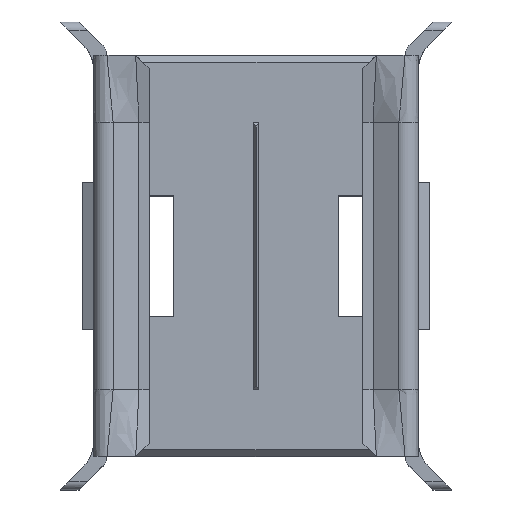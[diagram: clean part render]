
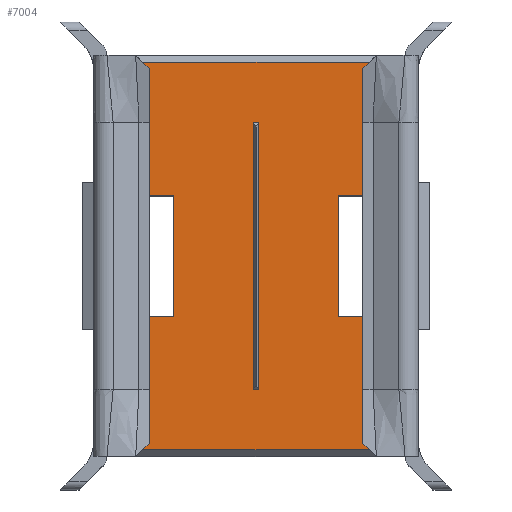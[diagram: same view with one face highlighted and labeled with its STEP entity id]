
A CAD part, top view. The second image highlights one B-rep face of the part: STEP entity #7004.
In plain terms, the highlighted planar face has unit normal (0, 0, 1).
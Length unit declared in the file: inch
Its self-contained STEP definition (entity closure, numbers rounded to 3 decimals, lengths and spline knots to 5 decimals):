
#2787=DIRECTION('',(1.,0.,0.));
#2788=VECTOR('',#2787,2.13);
#2789=CARTESIAN_POINT('',(-1.065,1.45,0.));
#2790=LINE('',#2789,#2788);
#2794=DIRECTION('',(0.,1.,0.));
#2795=VECTOR('',#2794,1.);
#2796=CARTESIAN_POINT('',(1.065,0.45,0.));
#2797=LINE('',#2796,#2795);
#2801=DIRECTION('',(-1.,0.,0.));
#2802=VECTOR('',#2801,0.45);
#2803=CARTESIAN_POINT('',(1.065,0.45,0.));
#2804=LINE('',#2803,#2802);
#2808=DIRECTION('',(0.,1.,0.));
#2809=VECTOR('',#2808,0.9);
#2810=CARTESIAN_POINT('',(0.615,-0.45,0.));
#2811=LINE('',#2810,#2809);
#2815=DIRECTION('',(-1.,0.,0.));
#2816=VECTOR('',#2815,0.45);
#2817=CARTESIAN_POINT('',(1.065,-0.45,0.));
#2818=LINE('',#2817,#2816);
#2822=DIRECTION('',(0.,1.,0.));
#2823=VECTOR('',#2822,1.);
#2824=CARTESIAN_POINT('',(1.065,-1.45,0.));
#2825=LINE('',#2824,#2823);
#2829=DIRECTION('',(-1.,0.,0.));
#2830=VECTOR('',#2829,2.13);
#2831=CARTESIAN_POINT('',(1.065,-1.45,0.));
#2832=LINE('',#2831,#2830);
#2836=DIRECTION('',(0.,-1.,0.));
#2837=VECTOR('',#2836,1.);
#2838=CARTESIAN_POINT('',(-1.065,-0.45,0.));
#2839=LINE('',#2838,#2837);
#2843=DIRECTION('',(1.,0.,0.));
#2844=VECTOR('',#2843,0.45);
#2845=CARTESIAN_POINT('',(-1.065,-0.45,0.));
#2846=LINE('',#2845,#2844);
#2850=DIRECTION('',(0.,-1.,0.));
#2851=VECTOR('',#2850,0.9);
#2852=CARTESIAN_POINT('',(-0.615,0.45,0.));
#2853=LINE('',#2852,#2851);
#2857=DIRECTION('',(1.,0.,0.));
#2858=VECTOR('',#2857,0.45);
#2859=CARTESIAN_POINT('',(-1.065,0.45,0.));
#2860=LINE('',#2859,#2858);
#2864=DIRECTION('',(0.,-1.,0.));
#2865=VECTOR('',#2864,1.);
#2866=CARTESIAN_POINT('',(-1.065,1.45,0.));
#2867=LINE('',#2866,#2865);
#2871=DIRECTION('',(1.,0.,0.));
#2872=VECTOR('',#2871,0.04);
#2873=CARTESIAN_POINT('',(-0.02,1.,0.));
#2874=LINE('',#2873,#2872);
#2878=DIRECTION('',(0.,-1.,0.));
#2879=VECTOR('',#2878,2.);
#2880=CARTESIAN_POINT('',(-0.02,1.,0.));
#2881=LINE('',#2880,#2879);
#2885=DIRECTION('',(1.,0.,0.));
#2886=VECTOR('',#2885,0.04);
#2887=CARTESIAN_POINT('',(-0.02,-1.,0.));
#2888=LINE('',#2887,#2886);
#2892=DIRECTION('',(0.,-1.,0.));
#2893=VECTOR('',#2892,2.);
#2894=CARTESIAN_POINT('',(0.02,1.,0.));
#2895=LINE('',#2894,#2893);
#4542=CARTESIAN_POINT('',(1.065,1.45,0.));
#4544=VERTEX_POINT('',#4542);
#4548=CARTESIAN_POINT('',(-1.065,1.45,0.));
#4549=VERTEX_POINT('',#4548);
#4578=CARTESIAN_POINT('',(-1.065,-1.45,0.));
#4579=VERTEX_POINT('',#4578);
#4582=CARTESIAN_POINT('',(1.065,-1.45,0.));
#4583=VERTEX_POINT('',#4582);
#4841=CARTESIAN_POINT('',(-1.065,0.45,0.));
#4842=CARTESIAN_POINT('',(-0.615,0.45,0.));
#4843=VERTEX_POINT('',#4841);
#4844=VERTEX_POINT('',#4842);
#4845=CARTESIAN_POINT('',(-0.615,-0.45,0.));
#4846=VERTEX_POINT('',#4845);
#4847=CARTESIAN_POINT('',(-1.065,-0.45,0.));
#4848=VERTEX_POINT('',#4847);
#4849=CARTESIAN_POINT('',(1.065,-0.45,0.));
#4850=CARTESIAN_POINT('',(0.615,-0.45,0.));
#4851=VERTEX_POINT('',#4849);
#4852=VERTEX_POINT('',#4850);
#4853=CARTESIAN_POINT('',(0.615,0.45,0.));
#4854=VERTEX_POINT('',#4853);
#4855=CARTESIAN_POINT('',(1.065,0.45,0.));
#4856=VERTEX_POINT('',#4855);
#4989=CARTESIAN_POINT('',(-0.02,1.,0.));
#4990=CARTESIAN_POINT('',(0.02,1.,0.));
#4991=VERTEX_POINT('',#4989);
#4992=VERTEX_POINT('',#4990);
#4993=CARTESIAN_POINT('',(-0.02,-1.,0.));
#4994=CARTESIAN_POINT('',(0.02,-1.,0.));
#4995=VERTEX_POINT('',#4993);
#4996=VERTEX_POINT('',#4994);
#6972=CARTESIAN_POINT('',(1.115,1.,0.));
#6973=DIRECTION('',(0.,0.,1.));
#6974=DIRECTION('',(-1.,0.,0.));
#6975=AXIS2_PLACEMENT_3D('',#6972,#6973,#6974);
#6976=PLANE('',#6975);
#6978=ORIENTED_EDGE('',*,*,#6977,.T.);
#6979=ORIENTED_EDGE('',*,*,#6954,.F.);
#6980=ORIENTED_EDGE('',*,*,#6909,.T.);
#6981=ORIENTED_EDGE('',*,*,#6925,.F.);
#6982=ORIENTED_EDGE('',*,*,#6940,.F.);
#6983=ORIENTED_EDGE('',*,*,#6965,.F.);
#6984=ORIENTED_EDGE('',*,*,#5614,.T.);
#6985=ORIENTED_EDGE('',*,*,#5659,.F.);
#6987=ORIENTED_EDGE('',*,*,#6986,.T.);
#6989=ORIENTED_EDGE('',*,*,#6988,.F.);
#6990=ORIENTED_EDGE('',*,*,#6748,.F.);
#6991=ORIENTED_EDGE('',*,*,#5640,.F.);
#6992=EDGE_LOOP('',(#6978,#6979,#6980,#6981,#6982,#6983,#6984,#6985,#6987,#6989,
#6990,#6991));
#6993=FACE_OUTER_BOUND('',#6992,.F.);
#6995=ORIENTED_EDGE('',*,*,#6994,.F.);
#6997=ORIENTED_EDGE('',*,*,#6996,.T.);
#6999=ORIENTED_EDGE('',*,*,#6998,.T.);
#7001=ORIENTED_EDGE('',*,*,#7000,.F.);
#7002=EDGE_LOOP('',(#6995,#6997,#6999,#7001));
#7003=FACE_BOUND('',#7002,.F.);
#7004=ADVANCED_FACE('',(#6993,#7003),#6976,.T.);
#5614=EDGE_CURVE('',#4583,#4579,#2832,.T.);
#5640=EDGE_CURVE('',#4549,#4843,#2867,.T.);
#5659=EDGE_CURVE('',#4848,#4579,#2839,.T.);
#6748=EDGE_CURVE('',#4843,#4844,#2860,.T.);
#6909=EDGE_CURVE('',#4856,#4854,#2804,.T.);
#6925=EDGE_CURVE('',#4852,#4854,#2811,.T.);
#6940=EDGE_CURVE('',#4851,#4852,#2818,.T.);
#6954=EDGE_CURVE('',#4856,#4544,#2797,.T.);
#6965=EDGE_CURVE('',#4583,#4851,#2825,.T.);
#6977=EDGE_CURVE('',#4549,#4544,#2790,.T.);
#6986=EDGE_CURVE('',#4848,#4846,#2846,.T.);
#6988=EDGE_CURVE('',#4844,#4846,#2853,.T.);
#6994=EDGE_CURVE('',#4991,#4992,#2874,.T.);
#6996=EDGE_CURVE('',#4991,#4995,#2881,.T.);
#6998=EDGE_CURVE('',#4995,#4996,#2888,.T.);
#7000=EDGE_CURVE('',#4992,#4996,#2895,.T.);
